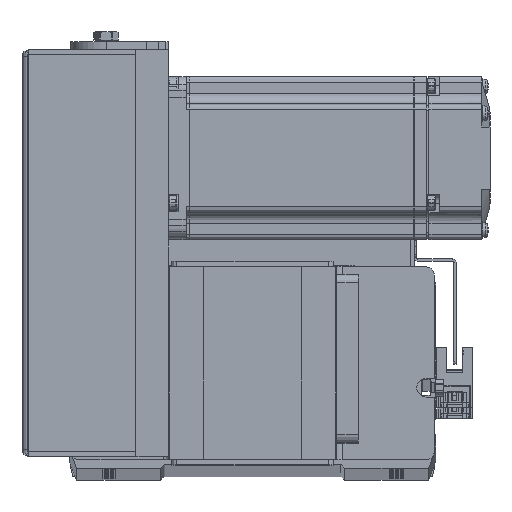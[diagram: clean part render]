
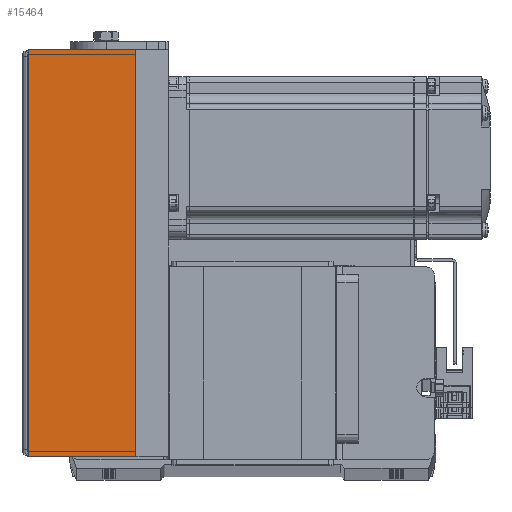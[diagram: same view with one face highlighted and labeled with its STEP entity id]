
A CAD part, top view. The second image highlights one B-rep face of the part: STEP entity #15464.
In plain terms, the highlighted planar face has unit normal (0, 0, 1) as drawn and (0, 1, 0) by its records, which use the part's own axes.
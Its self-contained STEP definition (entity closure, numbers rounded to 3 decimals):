
#36 = CARTESIAN_POINT ( 'NONE',  ( -75., 36., 51.5 ) ) ;
#390 = VECTOR ( 'NONE', #27823, 1000. ) ;
#1039 = VECTOR ( 'NONE', #19630, 1000. ) ;
#2442 = VECTOR ( 'NONE', #27774, 1000. ) ;
#3996 = DIRECTION ( 'NONE',  ( 0., 0., 1. ) ) ;
#5739 = ORIENTED_EDGE ( 'NONE', *, *, #17149, .T. ) ;
#6520 = CARTESIAN_POINT ( 'NONE',  ( 75., 36., 51.5 ) ) ;
#7336 = AXIS2_PLACEMENT_3D ( 'NONE', #31545, #34760, #3996 ) ;
#7392 = PLANE ( 'NONE',  #7336 ) ;
#9265 = LINE ( 'NONE', #36, #2442 ) ;
#9913 = VERTEX_POINT ( 'NONE', #31018 ) ;
#10972 = LINE ( 'NONE', #13773, #1039 ) ;
#12785 = CARTESIAN_POINT ( 'NONE',  ( 75., 36., 12. ) ) ;
#13773 = CARTESIAN_POINT ( 'NONE',  ( -75., 36., 51.5 ) ) ;
#14985 = CARTESIAN_POINT ( 'NONE',  ( -75., 36., 12. ) ) ;
#15447 = ORIENTED_EDGE ( 'NONE', *, *, #19909, .F. ) ;
#15464 = ADVANCED_FACE ( 'NONE', ( #23073 ), #7392, .F. ) ;
#17149 = EDGE_CURVE ( 'NONE', #25816, #27567, #27435, .T. ) ;
#19630 = DIRECTION ( 'NONE',  ( 0., 0., -1. ) ) ;
#19909 = EDGE_CURVE ( 'NONE', #9913, #22674, #10972, .T. ) ;
#22487 = ORIENTED_EDGE ( 'NONE', *, *, #22501, .T. ) ;
#22501 = EDGE_CURVE ( 'NONE', #27567, #22674, #23267, .T. ) ;
#22674 = VERTEX_POINT ( 'NONE', #14985 ) ;
#23073 = FACE_OUTER_BOUND ( 'NONE', #26314, .T. ) ;
#23267 = LINE ( 'NONE', #35539, #28026 ) ;
#25816 = VERTEX_POINT ( 'NONE', #36003 ) ;
#26314 = EDGE_LOOP ( 'NONE', ( #34407, #5739, #22487, #15447 ) ) ;
#27435 = LINE ( 'NONE', #6520, #390 ) ;
#27567 = VERTEX_POINT ( 'NONE', #12785 ) ;
#27774 = DIRECTION ( 'NONE',  ( -1., 0., 0. ) ) ;
#27823 = DIRECTION ( 'NONE',  ( 0., 0., -1. ) ) ;
#28026 = VECTOR ( 'NONE', #35935, 1000. ) ;
#29609 = EDGE_CURVE ( 'NONE', #25816, #9913, #9265, .T. ) ;
#31018 = CARTESIAN_POINT ( 'NONE',  ( -75., 36., 51.5 ) ) ;
#31545 = CARTESIAN_POINT ( 'NONE',  ( 0., 36., 52. ) ) ;
#34407 = ORIENTED_EDGE ( 'NONE', *, *, #29609, .F. ) ;
#34760 = DIRECTION ( 'NONE',  ( 0., -1., 0. ) ) ;
#35539 = CARTESIAN_POINT ( 'NONE',  ( 0., 36., 12. ) ) ;
#35935 = DIRECTION ( 'NONE',  ( -1., 0., 0. ) ) ;
#36003 = CARTESIAN_POINT ( 'NONE',  ( 75., 36., 51.5 ) ) ;
